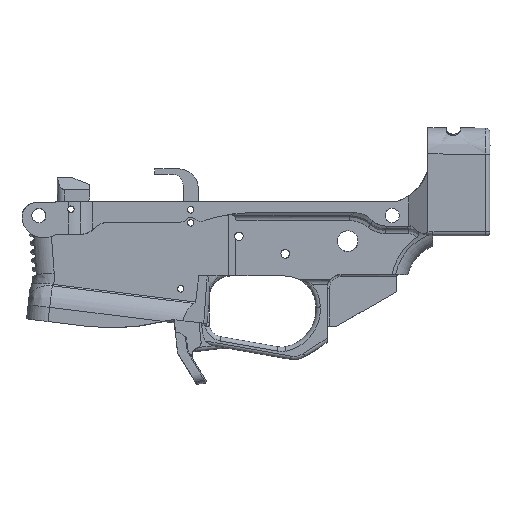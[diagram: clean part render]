
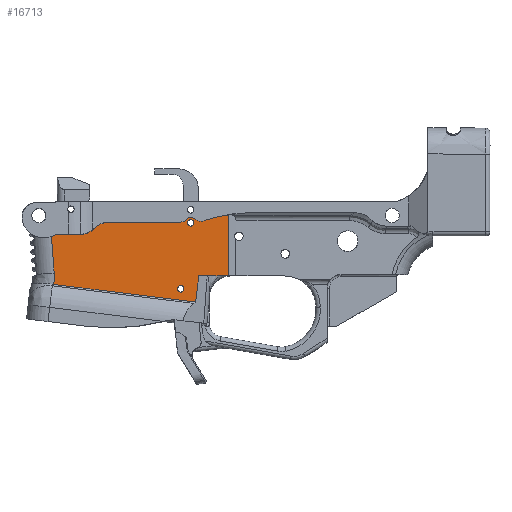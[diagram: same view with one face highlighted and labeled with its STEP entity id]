
A CAD part, left-side view. The second image highlights one B-rep face of the part: STEP entity #16713.
In plain terms, the highlighted planar face has unit normal (-1, 0.009, 0.001).
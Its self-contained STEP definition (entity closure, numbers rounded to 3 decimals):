
#416=ELLIPSE('',#17594,10.,10.);
#417=ELLIPSE('',#17595,24.001,24.);
#418=ELLIPSE('',#17596,1.5,1.5);
#419=ELLIPSE('',#17597,1.5,1.5);
#561=FACE_BOUND('',#4831,.T.);
#562=FACE_BOUND('',#4832,.T.);
#630=CIRCLE('',#17569,5.);
#634=CIRCLE('',#17582,2.5);
#635=CIRCLE('',#17584,5.);
#636=CIRCLE('',#17586,60.505);
#638=CIRCLE('',#17591,9.);
#639=CIRCLE('',#17592,9.);
#640=CIRCLE('',#17593,9.);
#1444=LINE('',#57754,#2612);
#1445=LINE('',#57758,#2613);
#1446=LINE('',#57764,#2614);
#1447=LINE('',#57768,#2615);
#1448=LINE('',#57772,#2616);
#1449=LINE('',#57774,#2617);
#1450=LINE('',#57776,#2618);
#1451=LINE('',#57777,#2619);
#2612=VECTOR('',#19497,10.);
#2613=VECTOR('',#19500,10.);
#2614=VECTOR('',#19505,10.);
#2615=VECTOR('',#19508,10.);
#2616=VECTOR('',#19511,10.);
#2617=VECTOR('',#19512,10.);
#2618=VECTOR('',#19513,10.);
#2619=VECTOR('',#19514,10.);
#3380=PLANE('',#17590);
#3913=FACE_OUTER_BOUND('',#4830,.T.);
#4830=EDGE_LOOP('',(#12770,#12771,#12772,#12773,#12774,#12775,#12776,#12777,
#12778,#12779,#12780,#12781,#12782,#12783,#12784,#12785,#12786));
#4831=EDGE_LOOP('',(#12787));
#4832=EDGE_LOOP('',(#12788));
#7156=VERTEX_POINT('',#57682);
#7157=VERTEX_POINT('',#57684);
#7176=VERTEX_POINT('',#57737);
#7177=VERTEX_POINT('',#57741);
#7178=VERTEX_POINT('',#57745);
#7181=VERTEX_POINT('',#57753);
#7182=VERTEX_POINT('',#57755);
#7183=VERTEX_POINT('',#57757);
#7184=VERTEX_POINT('',#57759);
#7185=VERTEX_POINT('',#57761);
#7186=VERTEX_POINT('',#57763);
#7187=VERTEX_POINT('',#57765);
#7188=VERTEX_POINT('',#57767);
#7189=VERTEX_POINT('',#57769);
#7190=VERTEX_POINT('',#57771);
#7191=VERTEX_POINT('',#57773);
#7192=VERTEX_POINT('',#57775);
#7193=VERTEX_POINT('',#57778);
#7194=VERTEX_POINT('',#57780);
#9228=EDGE_CURVE('',#7156,#7157,#630,.F.);
#9249=EDGE_CURVE('',#7157,#7176,#634,.T.);
#9251=EDGE_CURVE('',#7176,#7177,#635,.F.);
#9253=EDGE_CURVE('',#7178,#7177,#636,.T.);
#9257=EDGE_CURVE('',#7156,#7181,#1444,.T.);
#9258=EDGE_CURVE('',#7181,#7182,#638,.T.);
#9259=EDGE_CURVE('',#7182,#7183,#1445,.T.);
#9260=EDGE_CURVE('',#7183,#7184,#639,.T.);
#9261=EDGE_CURVE('',#7184,#7185,#640,.T.);
#9262=EDGE_CURVE('',#7185,#7186,#1446,.T.);
#9263=EDGE_CURVE('',#7186,#7187,#416,.T.);
#9264=EDGE_CURVE('',#7188,#7187,#1447,.T.);
#9265=EDGE_CURVE('',#7189,#7188,#417,.T.);
#9266=EDGE_CURVE('',#7190,#7189,#1448,.T.);
#9267=EDGE_CURVE('',#7191,#7190,#1449,.T.);
#9268=EDGE_CURVE('',#7192,#7191,#1450,.T.);
#9269=EDGE_CURVE('',#7192,#7178,#1451,.T.);
#9270=EDGE_CURVE('',#7193,#7193,#418,.T.);
#9271=EDGE_CURVE('',#7194,#7194,#419,.T.);
#12770=ORIENTED_EDGE('',*,*,#9257,.T.);
#12771=ORIENTED_EDGE('',*,*,#9258,.T.);
#12772=ORIENTED_EDGE('',*,*,#9259,.T.);
#12773=ORIENTED_EDGE('',*,*,#9260,.T.);
#12774=ORIENTED_EDGE('',*,*,#9261,.T.);
#12775=ORIENTED_EDGE('',*,*,#9262,.T.);
#12776=ORIENTED_EDGE('',*,*,#9263,.T.);
#12777=ORIENTED_EDGE('',*,*,#9264,.F.);
#12778=ORIENTED_EDGE('',*,*,#9265,.F.);
#12779=ORIENTED_EDGE('',*,*,#9266,.F.);
#12780=ORIENTED_EDGE('',*,*,#9267,.F.);
#12781=ORIENTED_EDGE('',*,*,#9268,.F.);
#12782=ORIENTED_EDGE('',*,*,#9269,.T.);
#12783=ORIENTED_EDGE('',*,*,#9253,.T.);
#12784=ORIENTED_EDGE('',*,*,#9251,.F.);
#12785=ORIENTED_EDGE('',*,*,#9249,.F.);
#12786=ORIENTED_EDGE('',*,*,#9228,.F.);
#12787=ORIENTED_EDGE('',*,*,#9270,.T.);
#12788=ORIENTED_EDGE('',*,*,#9271,.F.);
#16713=ADVANCED_FACE('',(#3913,#561,#562),#3380,.T.);
#17569=AXIS2_PLACEMENT_3D('',#57685,#19443,#19444);
#17582=AXIS2_PLACEMENT_3D('',#57738,#19477,#19478);
#17584=AXIS2_PLACEMENT_3D('',#57742,#19482,#19483);
#17586=AXIS2_PLACEMENT_3D('',#57746,#19487,#19488);
#17590=AXIS2_PLACEMENT_3D('',#57752,#19495,#19496);
#17591=AXIS2_PLACEMENT_3D('',#57756,#19498,#19499);
#17592=AXIS2_PLACEMENT_3D('',#57760,#19501,#19502);
#17593=AXIS2_PLACEMENT_3D('',#57762,#19503,#19504);
#17594=AXIS2_PLACEMENT_3D('',#57766,#19506,#19507);
#17595=AXIS2_PLACEMENT_3D('',#57770,#19509,#19510);
#17596=AXIS2_PLACEMENT_3D('',#57779,#19515,#19516);
#17597=AXIS2_PLACEMENT_3D('',#57781,#19517,#19518);
#19443=DIRECTION('center_axis',(1.,-0.009,
-0.001));
#19444=DIRECTION('ref_axis',(-0.004,-0.384,-0.923));
#19477=DIRECTION('center_axis',(1.,-0.009,
-0.001));
#19478=DIRECTION('ref_axis',(0.009,1.,0.));
#19482=DIRECTION('center_axis',(1.,-0.009,
-0.001));
#19483=DIRECTION('ref_axis',(0.001,0.176,-0.984));
#19487=DIRECTION('center_axis',(-1.,0.009,
0.001));
#19488=DIRECTION('ref_axis',(0.001,0.027,1.));
#19495=DIRECTION('center_axis',(-1.,0.009,
0.001));
#19496=DIRECTION('ref_axis',(-0.001,0.002,-1.));
#19497=DIRECTION('',(0.009,1.,0.));
#19498=DIRECTION('center_axis',(-1.,0.009,
0.001));
#19499=DIRECTION('ref_axis',(0.001,0.,
1.));
#19500=DIRECTION('',(0.009,1.,0.));
#19501=DIRECTION('center_axis',(-1.,0.009,
0.001));
#19502=DIRECTION('ref_axis',(0.001,0.,1.));
#19503=DIRECTION('center_axis',(1.,-0.009,
-0.001));
#19504=DIRECTION('ref_axis',(-0.001,0.,-1.));
#19505=DIRECTION('',(0.009,1.,0.));
#19506=DIRECTION('center_axis',(1.,-0.009,
-0.001));
#19507=DIRECTION('ref_axis',(-0.009,-0.997,-0.071));
#19508=DIRECTION('',(0.001,0.074,0.997));
#19509=DIRECTION('center_axis',(-1.,0.009,
0.001));
#19510=DIRECTION('ref_axis',(-0.009,-0.997,-0.08));
#19511=DIRECTION('',(0.009,0.992,0.123));
#19512=DIRECTION('',(0.,0.123,-0.992));
#19513=DIRECTION('',(0.009,1.,0.));
#19514=DIRECTION('',(0.001,-0.002,1.));
#19515=DIRECTION('center_axis',(1.,-0.009,
-0.001));
#19516=DIRECTION('ref_axis',(0.009,0.997,0.08));
#19517=DIRECTION('center_axis',(-1.,0.009,
0.001));
#19518=DIRECTION('ref_axis',(0.009,0.997,0.071));
#57682=CARTESIAN_POINT('',(6.597,9.031,12.02));
#57684=CARTESIAN_POINT('',(6.567,5.483,13.496));
#57685=CARTESIAN_POINT('Origin',(6.601,9.031,17.02));
#57737=CARTESIAN_POINT('',(6.538,2.105,13.651));
#57738=CARTESIAN_POINT('Origin',(6.551,3.71,11.735));
#57741=CARTESIAN_POINT('',(6.495,-2.787,12.776));
#57742=CARTESIAN_POINT('Origin',(6.513,-1.105,17.485));
#57745=CARTESIAN_POINT('',(6.403,-13.534,15.534));
#57746=CARTESIAN_POINT('Origin',(6.277,-23.136,-44.204));
#57752=CARTESIAN_POINT('Origin',(7.184,77.274,-0.919));
#57753=CARTESIAN_POINT('',(6.847,37.648,12.02));
#57754=CARTESIAN_POINT('',(6.9,43.712,12.02));
#57755=CARTESIAN_POINT('',(6.852,38.251,12.));
#57756=CARTESIAN_POINT('Origin',(6.841,37.648,3.02));
#57757=CARTESIAN_POINT('',(6.879,41.279,12.));
#57758=CARTESIAN_POINT('',(6.873,40.656,12.));
#57759=CARTESIAN_POINT('',(6.933,47.757,9.247));
#57760=CARTESIAN_POINT('Origin',(6.872,41.279,3.));
#57761=CARTESIAN_POINT('',(6.982,53.632,6.515));
#57762=CARTESIAN_POINT('Origin',(6.994,54.234,15.495));
#57763=CARTESIAN_POINT('',(7.083,65.147,6.515));
#57764=CARTESIAN_POINT('',(7.072,63.939,6.515));
#57765=CARTESIAN_POINT('',(7.103,67.503,5.439));
#57766=CARTESIAN_POINT('Origin',(7.135,70.447,14.995));
#57767=CARTESIAN_POINT('',(7.08,66.262,-11.266));
#57768=CARTESIAN_POINT('',(7.1,67.35,3.381));
#57769=CARTESIAN_POINT('',(7.078,66.448,-16.508));
#57770=CARTESIAN_POINT('Origin',(7.288,90.196,-13.044));
#57771=CARTESIAN_POINT('',(6.505,1.45,-24.583));
#57772=CARTESIAN_POINT('',(7.056,63.888,-16.826));
#57773=CARTESIAN_POINT('',(6.501,-0.032,-12.602));
#57774=CARTESIAN_POINT('',(6.505,1.179,-22.39));
#57775=CARTESIAN_POINT('',(6.384,-13.47,-12.602));
#57776=CARTESIAN_POINT('',(6.839,38.731,-12.602));
#57777=CARTESIAN_POINT('',(6.385,-13.474,-10.698));
#57778=CARTESIAN_POINT('',(6.538,2.21,11.735));
#57779=CARTESIAN_POINT('Origin',(6.551,3.71,11.735));
#57780=CARTESIAN_POINT('',(6.556,6.763,-18.478));
#57781=CARTESIAN_POINT('Origin',(6.569,8.263,-18.478));
